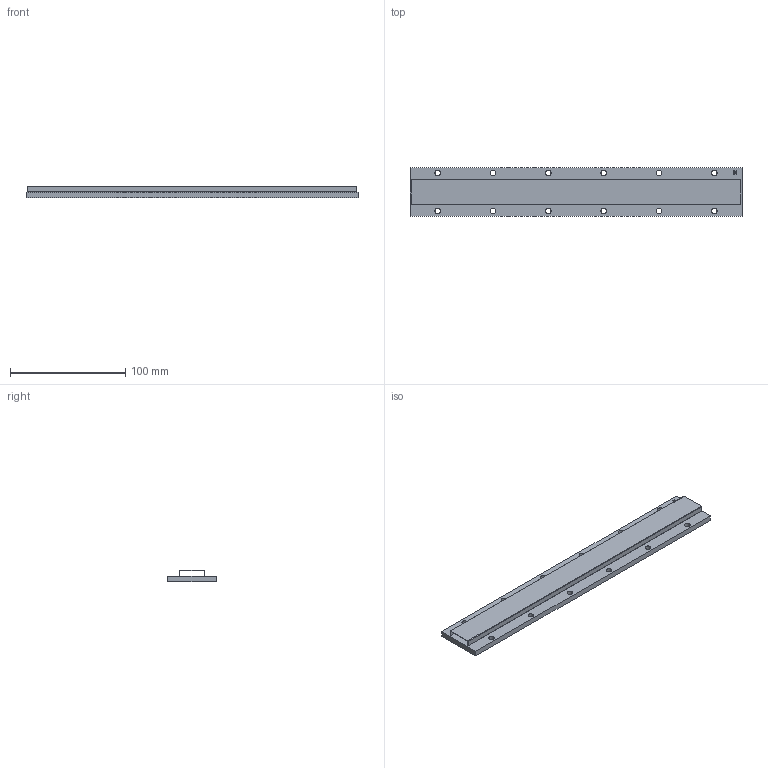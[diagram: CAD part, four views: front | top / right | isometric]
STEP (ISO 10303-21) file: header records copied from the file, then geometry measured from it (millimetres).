
FILE_DESCRIPTION(/* description */ ('','CAx-IF Rec.Pracs.---Representation and Presentation of Product Manufacturing Information (PMI)---4.0---2014-10-13'),/* implementation_level */ '2;1');
FILE_NAME(/* name */ 'C:\DESKTOP\홈페이지용 엔코더 3D 데이타 및 사진관련 자료\Linear Motor\MAGNET RAIL\CORE TYPE\400W\LM-H3S20-288-CSS0-S.stp',/* time_stamp */ '2023-08-02T12:18:09+09:00',/* author */ ('hnckhn'),/* organization */ (''),/* preprocessor_version */ 'ST-DEVELOPER v18.1',/* originating_system */ 'Autodesk Inventor 2021',/* authorisation */ '');
FILE_SCHEMA (('AP242_MANAGED_MODEL_BASED_3D_ENGINEERING_MIM_LF { 1 0 10303 442 1 1 4 }'));
Length unit declared in the file: millimetre
Products named in the file (3): LM-H3S20-288-CSS0-S; LM-H3-20-288-CSS0_MAGNET_BASE; LM-H3-20-288-CSS0_MAGNET_COVER_SUS
Assembly tree (2 placements, depth 2):
  LM-H3S20-288-CSS0-S
    LM-H3-20-288-CSS0_MAGNET_BASE
    LM-H3-20-288-CSS0_MAGNET_COVER_SUS
Bounding box: 288 x 42 x 10.4 mm (x, y, z)
Volume: 62606.3 mm3; surface area: 45814.6 mm2
Topology: 2 solids, 2 shells, 51 faces, 134 edges, 88 vertices
Faces by surface type: plane 35, cylinder 16
Full cylindrical faces by diameter (mm): 4.8 x12
Entity records: 1929 total; most frequent: DIRECTION 342, CARTESIAN_POINT 312, ORIENTED_EDGE 268, EDGE_CURVE 134, AXIS2_PLACEMENT_3D 126, LINE 90, VECTOR 90, VERTEX_POINT 88
